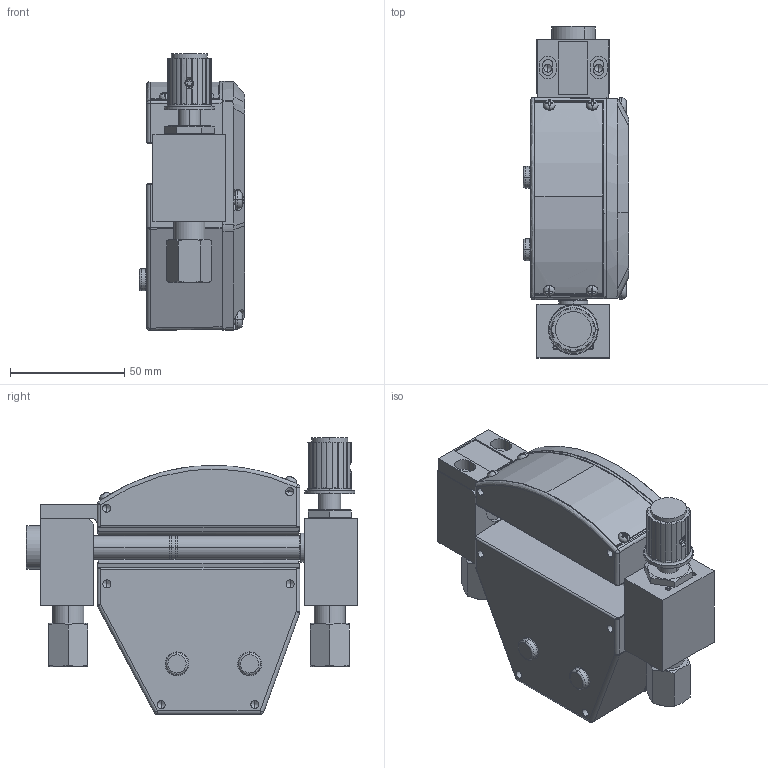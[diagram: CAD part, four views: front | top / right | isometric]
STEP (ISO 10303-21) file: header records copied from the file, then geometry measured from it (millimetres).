
FILE_DESCRIPTION (( 'STEP AP214' ), '1' );
FILE_NAME ('3750C-A-4-D-A-A-0.STEP', '2025-03-26T17:16:03', ( '' ), ( '' ), 'SwSTEP 2.0', 'SolidWorks 2023', '' );
FILE_SCHEMA (( 'AUTOMOTIVE_DESIGN' ));
Length unit declared in the file: inch
Products named in the file (6): 617b001_ag; 092c031_m; 947n060_b; 452z350_a; 014b102_g; 3750C-A-4-D-A-A-0
Assembly tree (6 placements, depth 2):
  3750C-A-4-D-A-A-0
    947n060_b
    452z350_a
    092c031_m
    014b102_g  x2
    617b001_ag
Bounding box: 46.05 x 145.06 x 121.06 mm (x, y, z)
Volume: 174002.2 mm3; surface area: 109239.2 mm2
Topology: 28 solids, 30 shells, 1223 faces, 3070 edges, 1923 vertices
Faces by surface type: plane 454, cylinder 366, cone 219, bspline 176, torus 8
Entity records: 42927 total; most frequent: CARTESIAN_POINT 15528, ORIENTED_EDGE 5916, DIRECTION 5165, EDGE_CURVE 2958, AXIS2_PLACEMENT_3D 1944, VERTEX_POINT 1887, EDGE_LOOP 1323, LINE 1277
